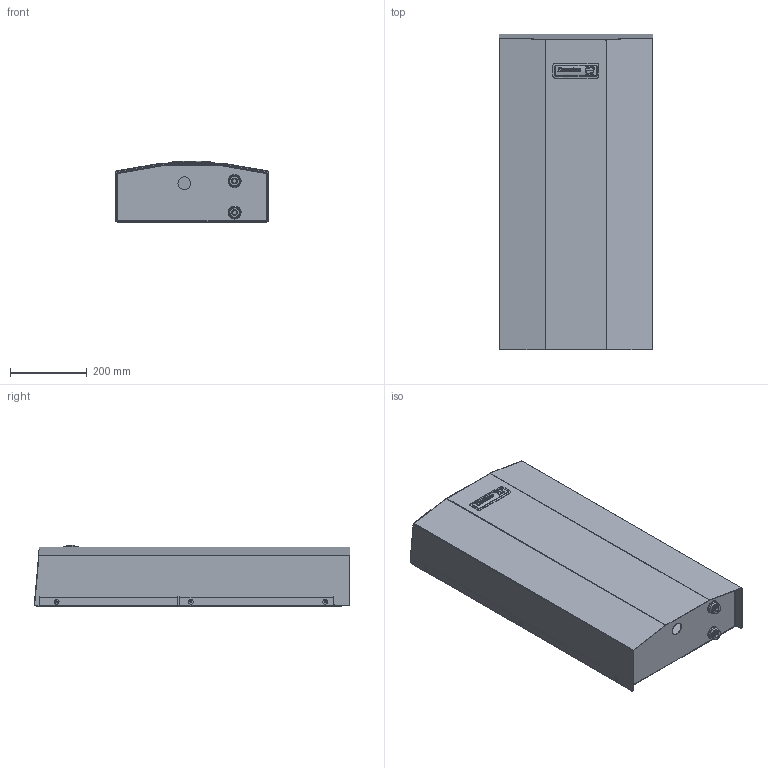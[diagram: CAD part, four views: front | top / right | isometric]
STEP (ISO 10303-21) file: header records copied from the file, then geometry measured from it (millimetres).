
FILE_DESCRIPTION (( 'STEP AP203' ), '1' );
FILE_NAME ('PWS 3102.STEP', '2017-11-21T19:42:41', ( '' ), ( '' ), 'SwSTEP 2.0', 'SolidWorks 2015', '' );
FILE_SCHEMA (( 'CONFIG_CONTROL_DESIGN' ));
Products named in the file (9): 085110180; 80000-008_885000136; PWS 3102; 80030-017_No Knockout; 020140030_020140030; 850380034; 80030-023_802002100; 885000105_885000105; 015080031
Assembly tree (16 placements, depth 2):
  PWS 3102
    80030-017_No Knockout
    020140030_020140030  x8
    850380034  x2
    80030-023_802002100
    885000105_885000105
    015080031
    085110180
    80000-008_885000136
Bounding box: 401.54 x 823.15 x 160.04 mm (x, y, z)
Volume: 1387229.9 mm3; surface area: 2179859.9 mm2
Topology: 67 solids, 67 shells, 3582 faces, 9387 edges, 6146 vertices
Faces by surface type: plane 1953, bspline 906, cylinder 563, cone 128, torus 32
Entity records: 189711 total; most frequent: CARTESIAN_POINT 117514, ORIENTED_EDGE 16364, DIRECTION 11335, EDGE_CURVE 8182, VERTEX_POINT 5372, VECTOR 5311, LINE 5311, EDGE_LOOP 3510
